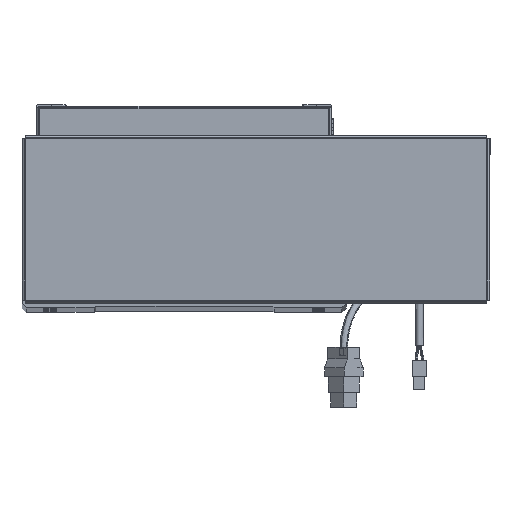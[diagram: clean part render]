
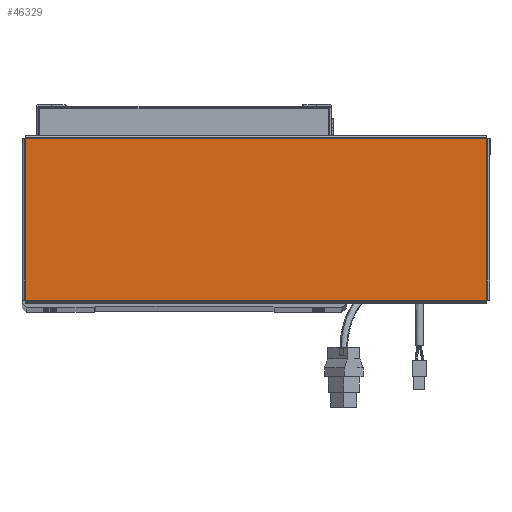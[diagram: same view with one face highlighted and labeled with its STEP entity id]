
A CAD part, top view. The second image highlights one B-rep face of the part: STEP entity #46329.
In plain terms, the highlighted planar face has unit normal (0, 0, 1).
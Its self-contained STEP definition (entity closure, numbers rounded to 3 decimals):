
#373 = VERTEX_POINT ( 'NONE', #18631 ) ;
#4111 = DIRECTION ( 'NONE',  ( -1., 0., 0. ) ) ;
#6909 = ORIENTED_EDGE ( 'NONE', *, *, #13373, .T. ) ;
#8575 = CARTESIAN_POINT ( 'NONE',  ( -156.543, -54.763, 0. ) ) ;
#10465 = ORIENTED_EDGE ( 'NONE', *, *, #26220, .T. ) ;
#13373 = EDGE_CURVE ( 'NONE', #65275, #373, #65617, .T. ) ;
#13638 = CARTESIAN_POINT ( 'NONE',  ( 156.513, -54.763, 0. ) ) ;
#15757 = VERTEX_POINT ( 'NONE', #42216 ) ;
#17791 = DIRECTION ( 'NONE',  ( 0., -1., 0. ) ) ;
#18271 = CARTESIAN_POINT ( 'NONE',  ( -156.513, 54.793, 0. ) ) ;
#18631 = CARTESIAN_POINT ( 'NONE',  ( -156.513, 54.763, 0. ) ) ;
#19826 = LINE ( 'NONE', #8575, #61155 ) ;
#24443 = ORIENTED_EDGE ( 'NONE', *, *, #30877, .T. ) ;
#26018 = CARTESIAN_POINT ( 'NONE',  ( 156.513, 54.763, 0. ) ) ;
#26220 = EDGE_CURVE ( 'NONE', #41169, #65275, #61814, .T. ) ;
#29336 = DIRECTION ( 'NONE',  ( 1., 0., 0. ) ) ;
#30638 = EDGE_LOOP ( 'NONE', ( #57340, #10465, #6909, #24443 ) ) ;
#30877 = EDGE_CURVE ( 'NONE', #373, #15757, #61738, .T. ) ;
#36563 = VECTOR ( 'NONE', #54584, 1000. ) ;
#37002 = VECTOR ( 'NONE', #4111, 1000. ) ;
#38230 = AXIS2_PLACEMENT_3D ( 'NONE', #39740, #50588, #39993 ) ;
#39740 = CARTESIAN_POINT ( 'NONE',  ( 0., 0., 0. ) ) ;
#39993 = DIRECTION ( 'NONE',  ( 1., 0., 0. ) ) ;
#40220 = PLANE ( 'NONE',  #38230 ) ;
#41169 = VERTEX_POINT ( 'NONE', #13638 ) ;
#42216 = CARTESIAN_POINT ( 'NONE',  ( -156.513, -54.763, 0. ) ) ;
#44924 = CARTESIAN_POINT ( 'NONE',  ( 156.513, -54.793, 0. ) ) ;
#45590 = EDGE_CURVE ( 'NONE', #15757, #41169, #19826, .T. ) ;
#46329 = ADVANCED_FACE ( 'NONE', ( #54363 ), #40220, .T. ) ;
#50588 = DIRECTION ( 'NONE',  ( 0., 0., 1. ) ) ;
#52687 = CARTESIAN_POINT ( 'NONE',  ( 156.543, 54.763, 0. ) ) ;
#54363 = FACE_OUTER_BOUND ( 'NONE', #30638, .T. ) ;
#54584 = DIRECTION ( 'NONE',  ( 0., 1., 0. ) ) ;
#57340 = ORIENTED_EDGE ( 'NONE', *, *, #45590, .T. ) ;
#61155 = VECTOR ( 'NONE', #29336, 1000. ) ;
#61738 = LINE ( 'NONE', #18271, #67621 ) ;
#61814 = LINE ( 'NONE', #44924, #36563 ) ;
#65275 = VERTEX_POINT ( 'NONE', #26018 ) ;
#65617 = LINE ( 'NONE', #52687, #37002 ) ;
#67621 = VECTOR ( 'NONE', #17791, 1000. ) ;
